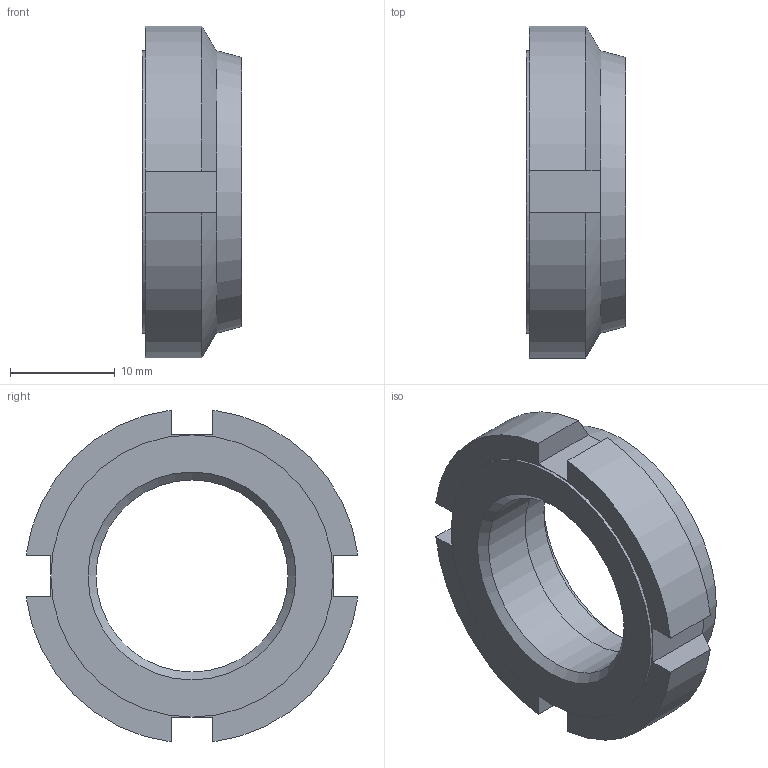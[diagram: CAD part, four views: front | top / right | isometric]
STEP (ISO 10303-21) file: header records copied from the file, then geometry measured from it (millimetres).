
FILE_DESCRIPTION( ( 'STEP AP203' ), '1' );
FILE_NAME( 'C:/Temp/Ganter_Step_05_03_2020/data/3_2/gn1804_1/Slotted locknut self-locking GN 1804.1-M20x1,5.stp', '2020-03-13T05:25:15', ( 'License CC BY-ND 4.0' ), ( 'CADENAS' ), ' ', 'PARTsolutions', ' ' );
FILE_SCHEMA( ( 'CONFIG_CONTROL_DESIGN' ) );
Length unit declared in the file: millimetre
Products named in the file (1): _Slotted locknut self-locking GN 1804.1-M20x1,5
Bounding box: 9.5 x 31.75 x 31.75 mm (x, y, z)
Volume: 3890 mm3; surface area: 2422 mm2
Topology: 1 solids, 1 shells, 34 faces, 79 edges, 49 vertices
Faces by surface type: plane 20, cylinder 8, cone 6
Full cylindrical faces by diameter (mm): 18.376 x1, 18.9 x1, 21 x1, 27 x1
Entity records: 994 total; most frequent: CARTESIAN_POINT 205, DIRECTION 152, ORIENTED_EDGE 146, EDGE_CURVE 73, AXIS2_PLACEMENT_3D 60, VERTEX_POINT 49, EDGE_LOOP 44, FACE_OUTER_BOUND 38
